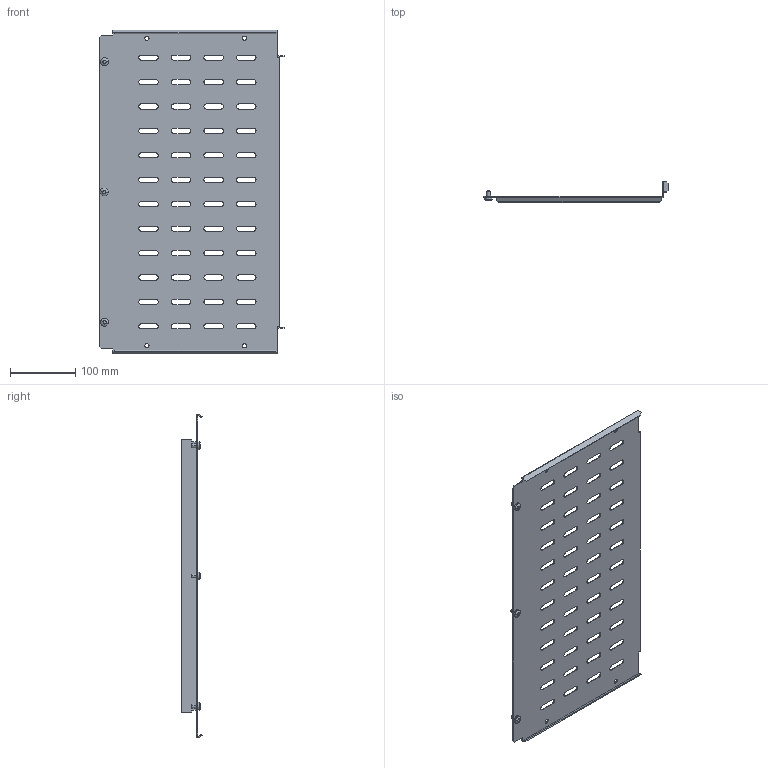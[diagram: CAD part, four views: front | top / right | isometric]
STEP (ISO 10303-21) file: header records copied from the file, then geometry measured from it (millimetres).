
FILE_DESCRIPTION (( 'STEP AP214' ), '1' );
FILE_NAME ('FO-00-SWFÑ-050 Ïåðåãîðîäêà ñåêöèîíèðîâàíèÿ çàäíÿÿ äëÿ âåðòèêàëüíîãî êàáåëüíîãî îòñåêà âûñîòà 050 ìì â øêàô øèðèíîé 600 ìì.STEP', '2025-08-13T13:01:19', ( '' ), ( '' ), 'SwSTEP 2.0', 'SolidWorks 2023', '' );
FILE_SCHEMA (( 'AUTOMOTIVE_DESIGN' ));
Length unit declared in the file: millimetre
Products named in the file (1): FO-00-SWFС-050 Перегородка секционирования задняя для вертикального кабельного отсека высота 050 мм в шкаф шириной 600 мм
Bounding box: 283.5 x 31.66 x 497.2 mm (x, y, z)
Volume: 210416.1 mm3; surface area: 286894.8 mm2
Topology: 1 solids, 1 shells, 347 faces, 999 edges, 660 vertices
Faces by surface type: cylinder 167, plane 162, torus 6, cone 6, sphere 6
Entity records: 11752 total; most frequent: CARTESIAN_POINT 2208, ORIENTED_EDGE 1998, DIRECTION 1957, EDGE_CURVE 999, AXIS2_PLACEMENT_3D 661, VERTEX_POINT 660, VECTOR 635, LINE 635
